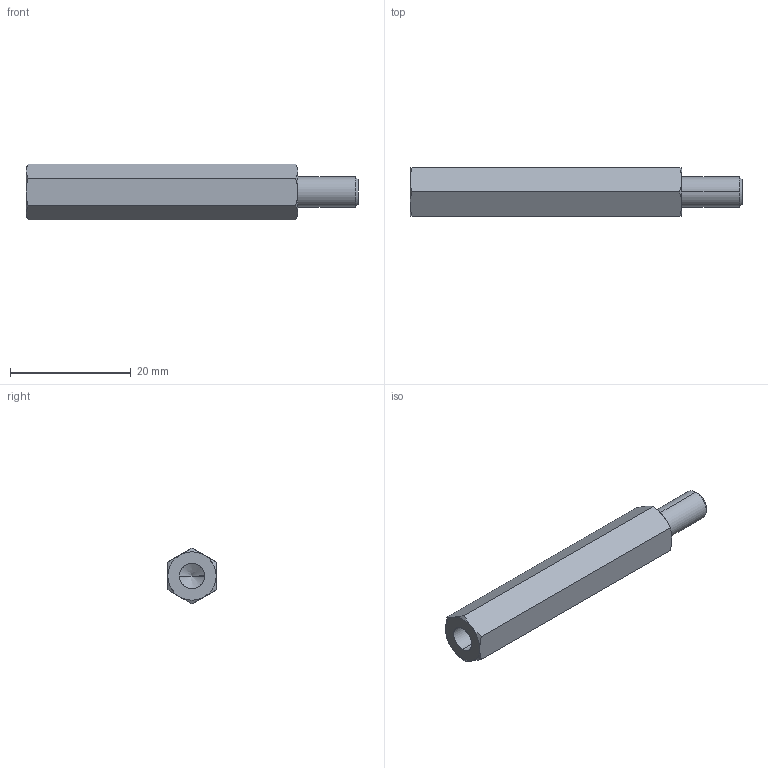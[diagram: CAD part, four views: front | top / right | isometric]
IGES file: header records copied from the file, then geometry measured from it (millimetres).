
Start section: SolidWorks IGES file using analytic representation for surfaces
Global section: file name: C:\Users\render1\Desktop\P0185_IGES\P0185.05-45.igs; native system: SolidWorks 2009; preprocessor: SolidWorks 2009; author: render1; date: 130627.112622; units: millimetre
Bounding box: 55 x 8 x 9.24 mm (x, y, z)
Surface area: 1640 mm2 (no closed solid volume)
Topology: 0 solids, 0 shells, 29 faces, 324 edges, 322 vertices
Faces by surface type: revolution 20, bspline 9
